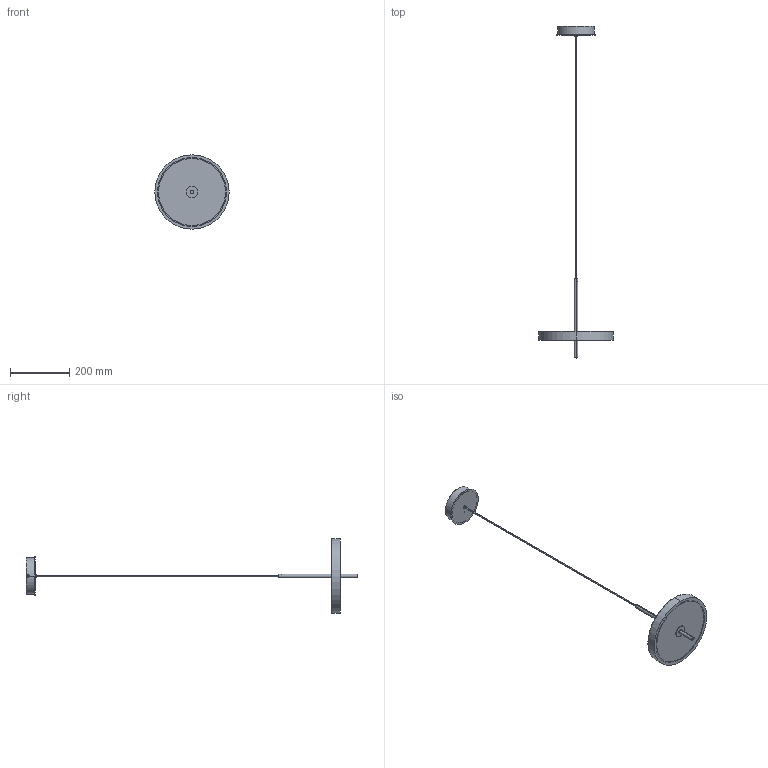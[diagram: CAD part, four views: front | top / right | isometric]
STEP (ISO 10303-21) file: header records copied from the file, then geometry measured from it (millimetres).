
FILE_DESCRIPTION (( 'STEP AP203' ), '1' );
FILE_NAME ('SN.S025_Conjunt SPIN Penjant Ø250mm_forma.STEP', '2025-07-08T11:27:12', ( '' ), ( '' ), 'SwSTEP 2.0', 'SolidWorks 2013', '' );
FILE_SCHEMA (( 'CONFIG_CONTROL_DESIGN' ));
Length unit declared in the file: millimetre
Products named in the file (14): MS050_Pasacable abierto _11x_4_498070.STEP; PP047_Difusor amb lli Ø224; GI197_SUP. FIXACIÓ FLORÓ 120; SN.S025_Conjunt SPIN Penjant Ø250mm_forma; AR071_FLORÓ ø120x30 2xM4 sistema USA; GI448_Tija superior Ø12x190_M10x1_pasØ2; KO219_Cable elèctric 2x0.35_80cm; Disc emb.ﾘ125; FU035_Anell Spin Ø250x31mm; AG019_M4x8; GI451_Arandela Ø50 pas 10; GI450_Tub Ø12x70_M10x1; GI443_Tapa Ø245 fixació LED; PP048_Difusor amb lli Ø230
Assembly tree (15 placements, depth 2):
  SN.S025_Conjunt SPIN Penjant Ø250mm_forma
    FU035_Anell Spin Ø250x31mm
    GI443_Tapa Ø245 fixació LED
    PP047_Difusor amb lli Ø224
    PP048_Difusor amb lli Ø230
    GI451_Arandela Ø50 pas 10  x2
    GI450_Tub Ø12x70_M10x1
    GI448_Tija superior Ø12x190_M10x1_pasØ2
    KO219_Cable elèctric 2x0.35_80cm
    AR071_FLORÓ ø120x30 2xM4 sistema USA
    Disc emb.ﾘ125
    AG019_M4x8  x2
    GI197_SUP. FIXACIÓ FLORÓ 120
    MS050_Pasacable abierto _11x_4_498070.STEP
Bounding box: 250 x 1117.5 x 250 mm (x, y, z)
Volume: 556557.8 mm3; surface area: 421324.6 mm2
Topology: 15 solids, 15 shells, 212 faces, 468 edges, 300 vertices
Faces by surface type: cylinder 122, plane 60, torus 16, bspline 8, cone 6
Entity records: 7531 total; most frequent: CARTESIAN_POINT 1505, DIRECTION 1048, ORIENTED_EDGE 852, AXIS2_PLACEMENT_3D 455, EDGE_CURVE 426, VERTEX_POINT 274, CIRCLE 254, EDGE_LOOP 240
